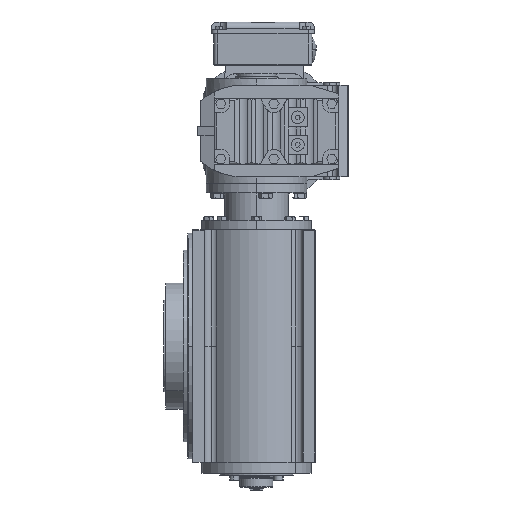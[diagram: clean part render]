
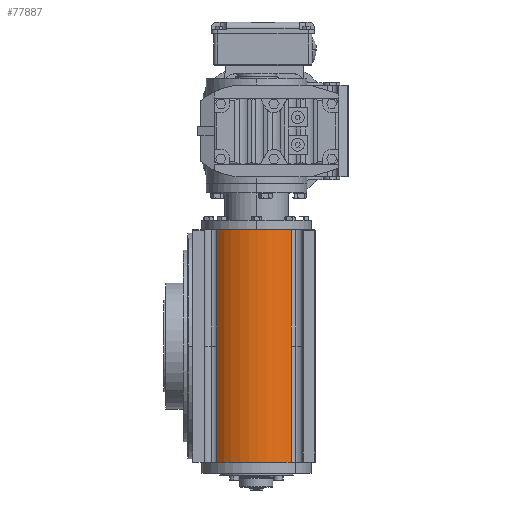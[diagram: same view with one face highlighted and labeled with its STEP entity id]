
A CAD part, left-side view. The second image highlights one B-rep face of the part: STEP entity #77887.
In plain terms, the highlighted cylindrical face has radius 60 mm (diameter 120 mm), a partial arc.
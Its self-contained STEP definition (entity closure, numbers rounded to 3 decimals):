
#157 = FACE_OUTER_BOUND ( 'NONE', #9994, .T. ) ;
#591 = CARTESIAN_POINT ( 'NONE',  ( -131.481, 26.059, 0. ) ) ;
#1243 = VECTOR ( 'NONE', #74797, 1000. ) ;
#1771 = VECTOR ( 'NONE', #40689, 1000. ) ;
#6015 = CARTESIAN_POINT ( 'NONE',  ( -85., 64., -121.981 ) ) ;
#7247 = DIRECTION ( 'NONE',  ( 0., 0., 1. ) ) ;
#8739 = CARTESIAN_POINT ( 'NONE',  ( -126.602, 107.235, -127. ) ) ;
#9703 = CARTESIAN_POINT ( 'NONE',  ( -131.481, 26.059, -127. ) ) ;
#9994 = EDGE_LOOP ( 'NONE', ( #30590, #81243, #53417, #41394, #45540, #54391 ) ) ;
#10468 = CARTESIAN_POINT ( 'NONE',  ( -126.602, 107.235, 0. ) ) ;
#12087 = CARTESIAN_POINT ( 'NONE',  ( -126.602, 107.235, -121.981 ) ) ;
#13435 = VERTEX_POINT ( 'NONE', #591 ) ;
#15299 = CARTESIAN_POINT ( 'NONE',  ( -131.481, 26.059, -121.981 ) ) ;
#15457 = CARTESIAN_POINT ( 'NONE',  ( -131.481, 26.059, 127. ) ) ;
#16017 = DIRECTION ( 'NONE',  ( -1., 0., 0. ) ) ;
#17696 = CARTESIAN_POINT ( 'NONE',  ( -85., 64., 127. ) ) ;
#19524 = EDGE_CURVE ( 'NONE', #42084, #13435, #77536, .T. ) ;
#22776 = CIRCLE ( 'NONE', #53346, 60. ) ;
#24761 = DIRECTION ( 'NONE',  ( 1., 0., 0. ) ) ;
#28087 = VECTOR ( 'NONE', #55666, 1000. ) ;
#28546 = CARTESIAN_POINT ( 'NONE',  ( -85., 64., -127. ) ) ;
#30590 = ORIENTED_EDGE ( 'NONE', *, *, #19524, .T. ) ;
#31234 = DIRECTION ( 'NONE',  ( 0., 0., -1. ) ) ;
#32358 = CIRCLE ( 'NONE', #78897, 60. ) ;
#34622 = AXIS2_PLACEMENT_3D ( 'NONE', #6015, #7247, #70053 ) ;
#37395 = LINE ( 'NONE', #49478, #28087 ) ;
#37883 = EDGE_CURVE ( 'NONE', #42084, #68780, #22776, .T. ) ;
#40689 = DIRECTION ( 'NONE',  ( 0., 0., 1. ) ) ;
#41394 = ORIENTED_EDGE ( 'NONE', *, *, #60507, .T. ) ;
#41404 = DIRECTION ( 'NONE',  ( 0., 0., -1. ) ) ;
#41493 = LINE ( 'NONE', #15299, #1771 ) ;
#42084 = VERTEX_POINT ( 'NONE', #9703 ) ;
#43468 = DIRECTION ( 'NONE',  ( 0., 0., 1. ) ) ;
#44125 = VERTEX_POINT ( 'NONE', #67174 ) ;
#45540 = ORIENTED_EDGE ( 'NONE', *, *, #59532, .T. ) ;
#49134 = LINE ( 'NONE', #12087, #57083 ) ;
#49478 = CARTESIAN_POINT ( 'NONE',  ( -126.602, 107.235, -121.981 ) ) ;
#52875 = EDGE_CURVE ( 'NONE', #13435, #70709, #41493, .T. ) ;
#53346 = AXIS2_PLACEMENT_3D ( 'NONE', #28546, #41404, #16017 ) ;
#53417 = ORIENTED_EDGE ( 'NONE', *, *, #69534, .F. ) ;
#54391 = ORIENTED_EDGE ( 'NONE', *, *, #37883, .F. ) ;
#55666 = DIRECTION ( 'NONE',  ( 0., 0., -1. ) ) ;
#57083 = VECTOR ( 'NONE', #31234, 1000. ) ;
#59532 = EDGE_CURVE ( 'NONE', #73267, #68780, #49134, .T. ) ;
#60507 = EDGE_CURVE ( 'NONE', #44125, #73267, #37395, .T. ) ;
#64644 = CYLINDRICAL_SURFACE ( 'NONE', #34622, 60. ) ;
#67174 = CARTESIAN_POINT ( 'NONE',  ( -126.602, 107.235, 127. ) ) ;
#68780 = VERTEX_POINT ( 'NONE', #8739 ) ;
#69534 = EDGE_CURVE ( 'NONE', #44125, #70709, #32358, .T. ) ;
#70053 = DIRECTION ( 'NONE',  ( 1., 0., 0. ) ) ;
#70709 = VERTEX_POINT ( 'NONE', #15457 ) ;
#73267 = VERTEX_POINT ( 'NONE', #10468 ) ;
#74797 = DIRECTION ( 'NONE',  ( 0., 0., 1. ) ) ;
#76703 = CARTESIAN_POINT ( 'NONE',  ( -131.481, 26.059, -121.981 ) ) ;
#77536 = LINE ( 'NONE', #76703, #1243 ) ;
#77887 = ADVANCED_FACE ( 'NONE', ( #157 ), #64644, .T. ) ;
#78897 = AXIS2_PLACEMENT_3D ( 'NONE', #17696, #43468, #24761 ) ;
#81243 = ORIENTED_EDGE ( 'NONE', *, *, #52875, .T. ) ;
